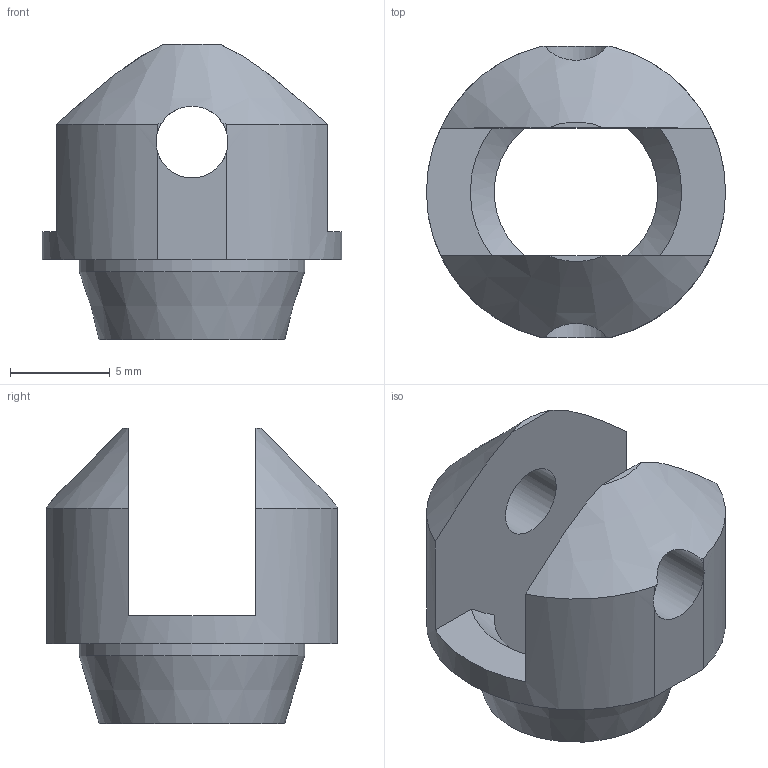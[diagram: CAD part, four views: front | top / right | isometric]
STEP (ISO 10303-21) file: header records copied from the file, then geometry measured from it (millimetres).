
FILE_DESCRIPTION(/* description */ (''),/* implementation_level */ '2;1');
FILE_NAME(/* name */ '4-53-2 Shock bottom.step',/* time_stamp */ '2025-05-10T22:21:34+02:00',/* author */ (''),/* organization */ (''),/* preprocessor_version */ 'ST-DEVELOPER v20.1',/* originating_system */ 'Autodesk Translation Framework v14.4.0.0',/* authorisation */ '');
FILE_SCHEMA (('AUTOMOTIVE_DESIGN { 1 0 10303 214 3 1 1 }'));
Length unit declared in the file: millimetre
Products named in the file (1): 4-53-2 Shock bottom
Bounding box: 15 x 14.6 x 14.8 mm (x, y, z)
Volume: 826.8 mm3; surface area: 1037.5 mm2
Topology: 1 solids, 1 shells, 26 faces, 77 edges, 51 vertices
Faces by surface type: plane 14, cylinder 7, cone 5
Full cylindrical faces by diameter (mm): 3.6 x2, 11.3 x1
Entity records: 970 total; most frequent: CARTESIAN_POINT 229, ORIENTED_EDGE 154, DIRECTION 146, EDGE_CURVE 77, AXIS2_PLACEMENT_3D 58, VERTEX_POINT 51, CIRCLE 31, EDGE_LOOP 30
